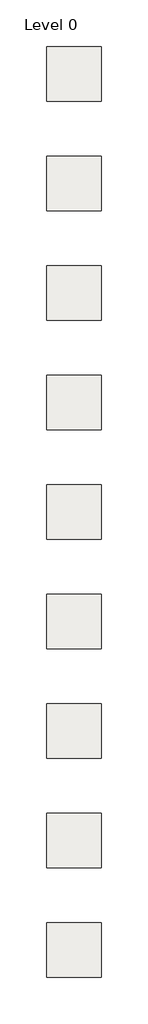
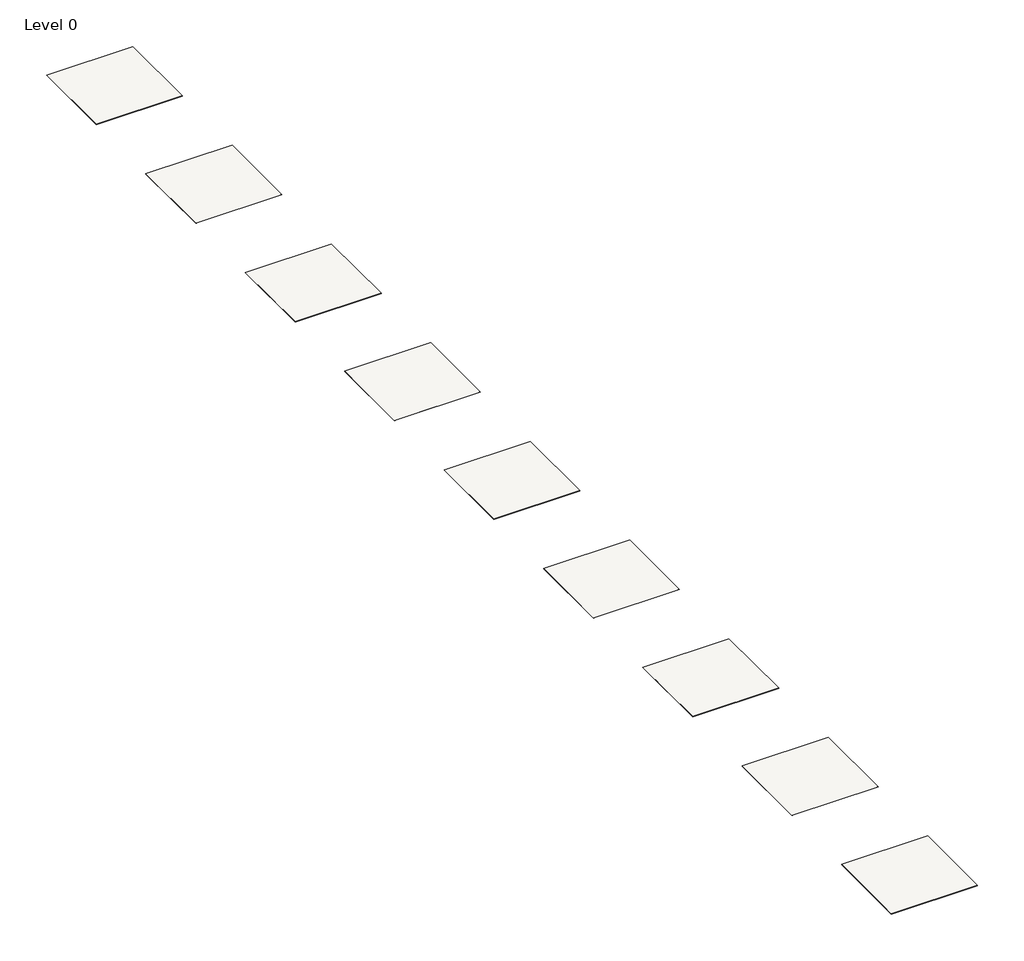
# One storey: 9 coverings.
"""IFC4 building model written with IfcOpenShell, lengths in millimetres."""

from ifc_helpers import new_model, si_unit, frame, origin, place, context, project, spatial, polyline, outline, extrude, element, save

model = new_model("IFC4")

# Units and contexts
model_context = context("Model", 3, world=origin())
ifc_project = project(units=[si_unit("LENGTHUNIT", "METRE", prefix="MILLI")], contexts=[model_context])

# Site, building, storey
site = spatial("IfcSite", under=ifc_project)
building = spatial("IfcBuilding", under=site)
storey = spatial("IfcBuildingStorey", under=building, Name="Level 0", Elevation=0.0)

# Coverings
placement = place(None, origin())
element("IfcCovering", 1, ObjectType="Archify_ECCarpets_Carpets_Boucle_Atticus4318", at=placement, inside=storey, context=model_context, shape_type="SweptSolid", body=[
    extrude(outline(polyline([(2500.0, 0.0), (2500.0, -2500.0), (0.0, -2500.0), (0.0, 0.0), (2500.0, 0.0)])), frame((0.0, 0.0, -9.0), z_axis=(0.0, 0.0, 1.0), x_axis=(1.0, 0.0, 0.0)), (0.0, 0.0, 1.0), 9.0),
])
element("IfcCovering", 2, ObjectType="Archify_ECCarpets_Carpets_Boucle_Coco4336", at=placement, inside=storey, context=model_context, shape_type="SweptSolid", body=[
    extrude(outline(polyline([(2500.0, -5000.0), (2500.0, -7500.0), (0.0, -7500.0), (0.0, -5000.0), (2500.0, -5000.0)])), frame((0.0, 0.0, -9.0), z_axis=(0.0, 0.0, 1.0), x_axis=(1.0, 0.0, 0.0)), (0.0, 0.0, 1.0), 9.0),
])
element("IfcCovering", 3, ObjectType="Archify_ECCarpets_Carpets_Boucle_Fredrik4348", at=placement, inside=storey, context=model_context, shape_type="SweptSolid", body=[
    extrude(outline(polyline([(2500.0, -10000.0), (2500.0, -12500.0), (0.0, -12500.0), (0.0, -10000.0), (2500.0, -10000.0)])), frame((0.0, 0.0, -9.0), z_axis=(0.0, 0.0, 1.0), x_axis=(1.0, 0.0, 0.0)), (0.0, 0.0, 1.0), 9.0),
])
element("IfcCovering", 4, ObjectType="Archify_ECCarpets_Carpets_Boucle_Jaqueline4342", at=placement, inside=storey, context=model_context, shape_type="SweptSolid", body=[
    extrude(outline(polyline([(2500.0, -15000.0), (2500.0, -17500.0), (0.0, -17500.0), (0.0, -15000.0), (2500.0, -15000.0)])), frame((0.0, 0.0, -9.0), z_axis=(0.0, 0.0, 1.0), x_axis=(1.0, 0.0, 0.0)), (0.0, 0.0, 1.0), 9.0),
])
element("IfcCovering", 5, ObjectType="Archify_ECCarpets_Carpets_Boucle_Maymo4308", at=placement, inside=storey, context=model_context, shape_type="SweptSolid", body=[
    extrude(outline(polyline([(2500.0, -20000.0), (2500.0, -22500.0), (0.0, -22500.0), (0.0, -20000.0), (2500.0, -20000.0)])), frame((0.0, 0.0, -9.0), z_axis=(0.0, 0.0, 1.0), x_axis=(1.0, 0.0, 0.0)), (0.0, 0.0, 1.0), 9.0),
])
element("IfcCovering", 6, ObjectType="Archify_ECCarpets_Carpets_Boucle_Mokum4347", at=placement, inside=storey, context=model_context, shape_type="SweptSolid", body=[
    extrude(outline(polyline([(2500.0, -25000.0), (2500.0, -27500.0), (0.0, -27500.0), (0.0, -25000.0), (2500.0, -25000.0)])), frame((0.0, 0.0, -9.0), z_axis=(0.0, 0.0, 1.0), x_axis=(1.0, 0.0, 0.0)), (0.0, 0.0, 1.0), 9.0),
])
element("IfcCovering", 7, ObjectType="Archify_ECCarpets_Carpets_Boucle_Ovie4304", at=placement, inside=storey, context=model_context, shape_type="SweptSolid", body=[
    extrude(outline(polyline([(2500.0, -30000.0), (2500.0, -32500.0), (0.0, -32500.0), (0.0, -30000.0), (2500.0, -30000.0)])), frame((0.0, 0.0, -9.0), z_axis=(0.0, 0.0, 1.0), x_axis=(1.0, 0.0, 0.0)), (0.0, 0.0, 1.0), 9.0),
])
element("IfcCovering", 8, ObjectType="Archify_ECCarpets_Carpets_Boucle_Sarinen4303", at=placement, inside=storey, context=model_context, shape_type="SweptSolid", body=[
    extrude(outline(polyline([(2500.0, -35000.0), (2500.0, -37500.0), (0.0, -37500.0), (0.0, -35000.0), (2500.0, -35000.0)])), frame((0.0, 0.0, -9.0), z_axis=(0.0, 0.0, 1.0), x_axis=(1.0, 0.0, 0.0)), (0.0, 0.0, 1.0), 9.0),
])
element("IfcCovering", 9, ObjectType="Archify_ECCarpets_Carpets_Boucle_Shu4315", at=placement, inside=storey, context=model_context, shape_type="SweptSolid", body=[
    extrude(outline(polyline([(2500.0, -40000.0), (2500.0, -42500.0), (0.0, -42500.0), (0.0, -40000.0), (2500.0, -40000.0)])), frame((0.0, 0.0, -9.0), z_axis=(0.0, 0.0, 1.0), x_axis=(1.0, 0.0, 0.0)), (0.0, 0.0, 1.0), 9.0),
])

save(model, "model.ifc")
